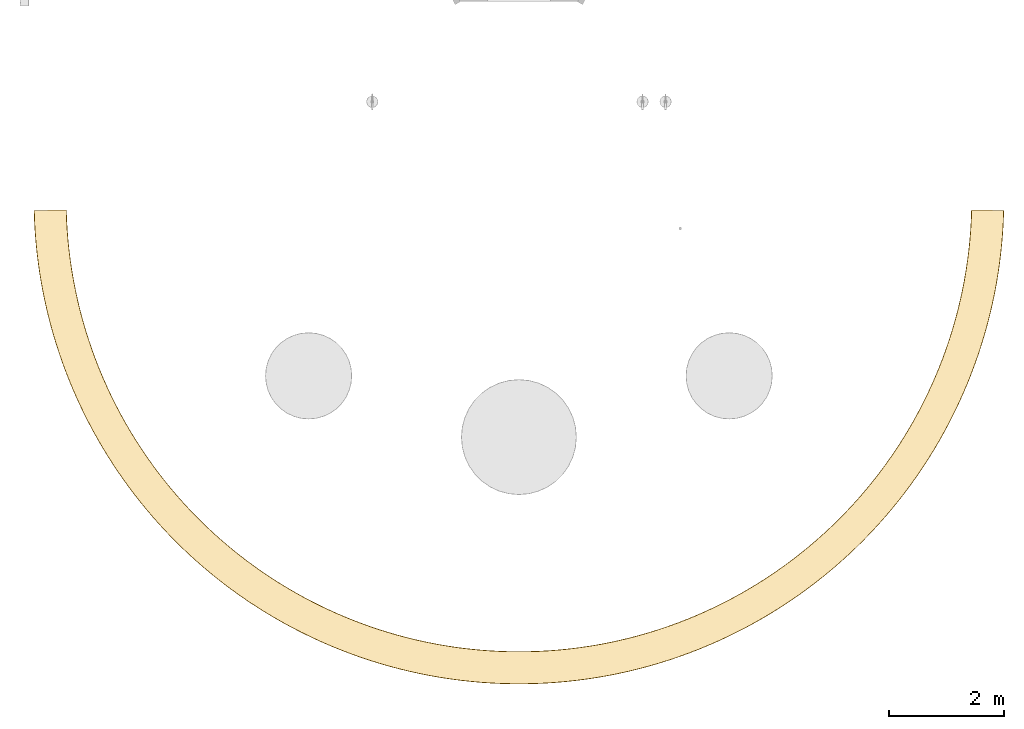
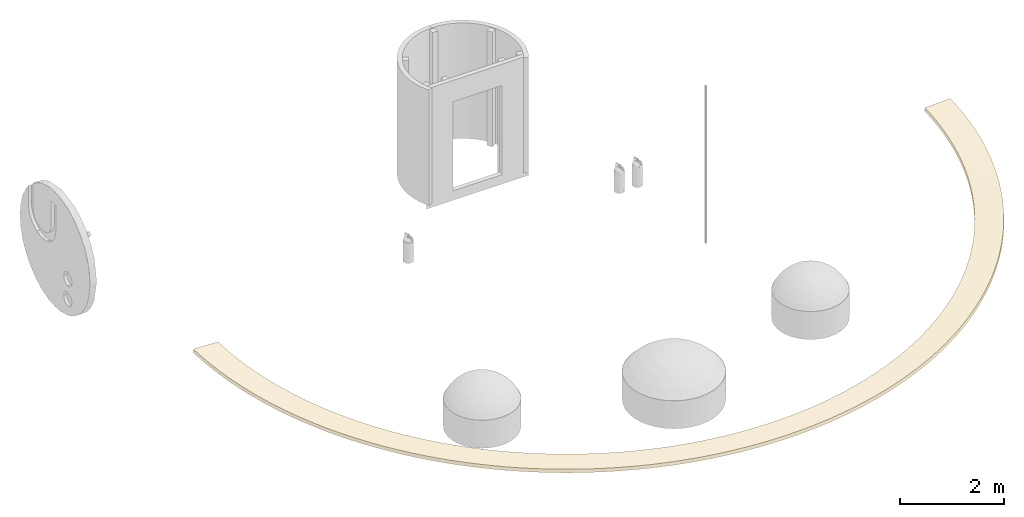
# One storey, part 4 of 4: 1 covering.
"""IFC4 building model written with IfcOpenShell, lengths in millimetres."""

import ifcopenshell
import ifcopenshell.guid

model = None  # the IFC model being written
_history = None  # IfcOwnerHistory: only IFC2X3 demands one
_inside = {}  # id of a spatial element -> (the spatial element, [elements in it])
_under = {}  # id of a project, library or spatial element -> (it, [spatial elements below it])
_declared = {}  # id of a project -> (the project, [libraries it declares])
_typed = {}  # id of a type object -> (the type object, [elements of that type])
_made_of = {}  # id of a material, layer set ... -> (it, [elements and type objects made of it])


def new_model(schema):
    """Start an empty IFC model of exactly this schema.

    Asked for "IFC4X3", IfcOpenShell would pick the latest addendum, in which some entities
    have other attributes; the version numbers below select the first issue.
    IFC2X3 requires an IfcOwnerHistory on every rooted entity: one is made here for all.
    """
    global model, _history
    if schema == "IFC4X3":
        model = ifcopenshell.file(schema_version=(4, 3, 0, 0))
    else:
        model = ifcopenshell.file(schema=schema)
    _inside.clear()
    _under.clear()
    _declared.clear()
    _typed.clear()
    _made_of.clear()
    _history = None
    if model.schema == "IFC2X3":
        org = make("IfcOrganization", Name="unknown")
        user = make(
            "IfcPersonAndOrganization",
            ThePerson=make("IfcPerson", FamilyName="unknown"),
            TheOrganization=org,
        )
        app = make(
            "IfcApplication",
            ApplicationDeveloper=org,
            Version="unknown",
            ApplicationFullName="unknown",
            ApplicationIdentifier="unknown",
        )
        _history = make(
            "IfcOwnerHistory",
            OwningUser=user,
            OwningApplication=app,
            ChangeAction="ADDED",
            CreationDate=0,
        )
    return model


def make(cls, **values):
    """One entity of the class cls with the attributes given. An attribute that is None is left unset."""
    return model.create_entity(
        cls, **{name: value for name, value in values.items() if value is not None}
    )


def entity(cls, *values):
    """Any entity or typed value of the class cls, its attributes in the order of the schema. None: left unset."""
    e = model.create_entity(cls)
    for i, value in enumerate(values):
        if value is not None:
            e[i] = value
    return e


def rooted(cls, **values):
    """An entity with a GlobalId (a new one), such as an element, a storey or a relation."""
    return make(cls, GlobalId=ifcopenshell.guid.new(), OwnerHistory=_history, **values)


def si_unit(unit_type, name, prefix=None):
    """IfcSIUnit, for example si_unit("LENGTHUNIT", "METRE", prefix="MILLI")."""
    return make("IfcSIUnit", UnitType=unit_type, Prefix=prefix, Name=name)


def converted_unit(unit_type, name, factor, base, dimensions=None, offset=None):
    """IfcConversionBasedUnit, such as the inch: factor (a typed value) times the base unit."""
    return make(
        "IfcConversionBasedUnit"
        if offset is None
        else "IfcConversionBasedUnitWithOffset",
        ConversionOffset=offset,
        Dimensions=None
        if dimensions is None
        else entity("IfcDimensionalExponents", *dimensions),
        UnitType=unit_type,
        Name=name,
        ConversionFactor=make(
            "IfcMeasureWithUnit", ValueComponent=factor, UnitComponent=base
        ),
    )


def derived_unit(unit_type, elements):
    """IfcDerivedUnit: a product of units, each with its exponent."""
    return make(
        "IfcDerivedUnit",
        Elements=[
            make("IfcDerivedUnitElement", Unit=unit, Exponent=power)
            for unit, power in elements
        ],
        UnitType=unit_type,
    )


def assignment(units):
    """IfcUnitAssignment: the units of a project."""
    return None if units is None else make("IfcUnitAssignment", Units=units)


def point(xyz):
    """IfcCartesianPoint."""
    return None if xyz is None else make("IfcCartesianPoint", Coordinates=xyz)


def direction(xyz):
    """IfcDirection."""
    return None if xyz is None else make("IfcDirection", DirectionRatios=xyz)


def frame(location, z_axis=None, x_axis=None):
    """IfcAxis2Placement3D, a coordinate frame: its origin and axes. An axis left out is left unset."""
    return make(
        "IfcAxis2Placement3D",
        Location=point(location),
        Axis=direction(z_axis),
        RefDirection=direction(x_axis),
    )


def origin_with_axes():
    """The frame at (0, 0, 0) with the z axis (0, 0, 1) and the x axis (1, 0, 0) written out."""
    return frame((0.0, 0.0, 0.0), z_axis=(0.0, 0.0, 1.0), x_axis=(1.0, 0.0, 0.0))


def place(relative_to, where):
    """IfcLocalPlacement: puts the frame where relative to a parent placement (None: the world)."""
    return make(
        "IfcLocalPlacement", PlacementRelTo=relative_to, RelativePlacement=where
    )


def context(
    kind, dimensions, precision=None, world=None, true_north=None, identifier=None
):
    """IfcGeometricRepresentationContext, for example the 3D "Model" context."""
    return make(
        "IfcGeometricRepresentationContext",
        ContextIdentifier=identifier,
        ContextType=kind,
        CoordinateSpaceDimension=dimensions,
        Precision=precision,
        WorldCoordinateSystem=world,
        TrueNorth=true_north,
    )


def subcontext(parent, identifier, kind, view, scale=None):
    """IfcGeometricRepresentationSubContext, for example "Body" below "Model"."""
    return make(
        "IfcGeometricRepresentationSubContext",
        ContextIdentifier=identifier,
        ContextType=kind,
        ParentContext=parent,
        TargetScale=scale,
        TargetView=view,
    )


def project(units=None, contexts=None):
    """IfcProject with its units and contexts."""
    return rooted(
        "IfcProject",
        Name="project",
        RepresentationContexts=contexts,
        UnitsInContext=assignment(units),
    )


def spatial(cls, under=None, at=None, **own):
    """A site, building, storey or space (cls), placed at a placement, below another one or the project."""
    s = rooted(cls, ObjectPlacement=at, **own)
    if under is not None:
        _under.setdefault(under.id(), (under, []))[1].append(s)
    return s


def point_list(points):
    """IfcCartesianPointList2D or 3D."""
    cls = (
        "IfcCartesianPointList2D" if len(points[0]) == 2 else "IfcCartesianPointList3D"
    )
    return make(cls, CoordList=points)


def line(*indices):
    """IfcLineIndex: a straight run through numbered points of an indexed curve."""
    return model.create_entity("IfcLineIndex", indices)


def indexed_curve(points, segments=None, self_intersect=None):
    """IfcIndexedPolyCurve: lines and arcs through numbered points (the first is 1)."""
    return make(
        "IfcIndexedPolyCurve",
        Points=point_list(points),
        Segments=segments,
        SelfIntersect=self_intersect,
    )


def outline(outer, holes=None, kind="AREA"):
    """IfcArbitraryClosedProfileDef: a profile drawn as a closed curve; with holes, ...WithVoids."""
    if holes is None:
        return make("IfcArbitraryClosedProfileDef", ProfileType=kind, OuterCurve=outer)
    return make(
        "IfcArbitraryProfileDefWithVoids",
        ProfileType=kind,
        OuterCurve=outer,
        InnerCurves=holes,
    )


def shape(context_of_items, identifier, shape_type, items):
    """IfcShapeRepresentation: the items that make up one representation, for example the "Body"."""
    return make(
        "IfcShapeRepresentation",
        ContextOfItems=context_of_items,
        RepresentationIdentifier=identifier,
        RepresentationType=shape_type,
        Items=items,
    )


def material(Name=None, Category=None):
    """IfcMaterial."""
    return make("IfcMaterial", Name=Name, Category=Category)


def material_profile(
    of_material, cross_section, Name=None, Category=None, Priority=None
):
    """IfcMaterialProfile: a cross section and its material."""
    return make(
        "IfcMaterialProfile",
        Name=Name,
        Material=of_material,
        Profile=cross_section,
        Priority=Priority,
        Category=Category,
    )


def profile_set(profiles, Name=None, composite=None):
    """IfcMaterialProfileSet."""
    return make(
        "IfcMaterialProfileSet",
        Name=Name,
        MaterialProfiles=profiles,
        CompositeProfile=composite,
    )


def made_of(thing, what):
    """Note that an element or type object is made of a material, layer set ...; save() writes the relation."""
    if what is not None:
        _made_of.setdefault(what.id(), (what, []))[1].append(thing)
    return thing


def type_object(cls, material=None, **own):
    """A type object (cls), such as IfcWallType, which elements share."""
    return made_of(rooted(cls, **own), material)


def element(
    cls,
    number,
    at=None,
    inside=None,
    cuts=None,
    type_object=None,
    material=None,
    context=None,
    identifier="Body",
    shape_type=None,
    held_by="IfcProductDefinitionShape",
    body=None,
    shapes=None,
    **own,
):
    """One element of the class cls, such as IfcWall. Its Tag is "e" and its number.

    at: its placement. inside: the storey or other place that contains it. cuts: it is an
    opening in that element (IfcRelVoidsElement). A single representation is given by context,
    identifier, shape_type and body (its items); several are given by shapes. held_by: the class
    of the entity that holds the representations. save() writes the other relations.
    """
    e = rooted(cls, Tag="e%d" % number, ObjectPlacement=at, **own)
    if body is not None:
        shapes = [shape(context, identifier, shape_type, body)]
    if shapes is not None:
        e.Representation = make(held_by, Representations=shapes)
    if inside is not None:
        _inside.setdefault(inside.id(), (inside, []))[1].append(e)
    if cuts is not None:
        rooted(
            "IfcRelVoidsElement", RelatingBuildingElement=cuts, RelatedOpeningElement=e
        )
    if type_object is not None:
        _typed.setdefault(type_object.id(), (type_object, []))[1].append(e)
    return made_of(e, material)


def aggregate(whole, parts):
    """IfcRelAggregates: a whole, such as a stair, and the parts it consists of."""
    return rooted("IfcRelAggregates", RelatingObject=whole, RelatedObjects=parts)


def save(model, path):
    """Write the relations noted so far, then the file.

    IfcRelAggregates (storeys below a building ...), IfcRelContainedInSpatialStructure (elements
    in a storey), IfcRelDefinesByType, IfcRelAssociatesMaterial and IfcRelDeclares: one each for
    every whole, place, type object, material and project.
    """
    for whole, parts in _under.values():
        aggregate(whole, parts)
    for where, things in _inside.values():
        rooted(
            "IfcRelContainedInSpatialStructure",
            RelatedElements=things,
            RelatingStructure=where,
        )
    for kind, things in _typed.values():
        rooted("IfcRelDefinesByType", RelatedObjects=things, RelatingType=kind)
    for what, things in _made_of.values():
        rooted("IfcRelAssociatesMaterial", RelatedObjects=things, RelatingMaterial=what)
    for by, libraries in _declared.values():
        rooted("IfcRelDeclares", RelatingContext=by, RelatedDefinitions=libraries)
    model.write(path)


model = new_model("IFC4")

# Units and contexts
model_context = context("Model", 3, precision=0.01, world=origin_with_axes(), true_north=direction((0.0, 1.0)))
body_context = subcontext(model_context, "Body", "Model", "MODEL_VIEW")
ifc_project = project(units=[si_unit("LENGTHUNIT", "METRE", prefix="MILLI"), si_unit("AREAUNIT", "SQUARE_METRE"), si_unit("VOLUMEUNIT", "CUBIC_METRE"), converted_unit("PLANEANGLEUNIT", "DEGREE", entity("IfcPlaneAngleMeasure", 0.0174532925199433), si_unit("PLANEANGLEUNIT", "RADIAN"), dimensions=[0, 0, 0, 0, 0, 0, 0]), converted_unit("TIMEUNIT", "Year", entity("IfcTimeMeasure", 31557600.0), si_unit("TIMEUNIT", "SECOND"), dimensions=[0, 0, 1, 0, 0, 0, 0]), si_unit("MASSUNIT", "GRAM", prefix="KILO"), si_unit("THERMODYNAMICTEMPERATUREUNIT", "DEGREE_CELSIUS"), si_unit("LUMINOUSINTENSITYUNIT", "LUMEN"), si_unit("ENERGYUNIT", "JOULE", prefix="MEGA"), derived_unit("THERMALCONDUCTANCEUNIT", [(si_unit("POWERUNIT", "WATT"), 1), (si_unit("LENGTHUNIT", "METRE"), -1), (si_unit("THERMODYNAMICTEMPERATUREUNIT", "KELVIN"), -1)]), derived_unit("SPECIFICHEATCAPACITYUNIT", [(si_unit("ENERGYUNIT", "JOULE"), 1), (si_unit("MASSUNIT", "GRAM", prefix="KILO"), -1), (si_unit("THERMODYNAMICTEMPERATUREUNIT", "KELVIN"), -1)]), derived_unit("MASSDENSITYUNIT", [(si_unit("MASSUNIT", "GRAM", prefix="KILO"), 1), (si_unit("VOLUMEUNIT", "CUBIC_METRE"), -1)])], contexts=[model_context])

# Site, building, storey
site_placement = place(None, origin_with_axes())
site = spatial("IfcSite", under=ifc_project, at=site_placement, Name="Exteriér", CompositionType="ELEMENT")
building_placement = place(site_placement, origin_with_axes())
building = spatial("IfcBuilding", under=site, at=building_placement, Name="Univerzitní lezecké centrum", CompositionType="ELEMENT")
storey_placement = place(building_placement, frame((0.0, 0.0, 9600.000000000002), z_axis=(0.0, 0.0, 1.0), x_axis=(1.0, 0.0, 0.0)))
storey = spatial("IfcBuildingStorey", under=building, at=storey_placement, Name="4.NP", CompositionType="ELEMENT", Elevation=9600.0)

# Covering
ifc_material = material(Name="Hliník")
ifc_material_profile = material_profile(ifc_material, outline(indexed_curve([(9.899494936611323, 11.31370849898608), (1.159269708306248, 2.573483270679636), (5.820970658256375, 78.79160044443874), (562.8952473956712, 44.71946928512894), (567.5639857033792, -31.61370764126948), (558.8237604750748, -22.8734824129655), (558.1166536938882, -23.58058919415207), (568.7232554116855, -34.18719091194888), (563.8393709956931, 45.66359288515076), (4.883884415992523, 79.85078379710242), (0.0, 0.0), (10.60660171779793, 10.60660171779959)], segments=[line(1, 2, 3, 4, 5, 6, 7, 8, 9, 10, 11, 12, 1)])), Name="Hliník")
ifc_profile_set = profile_set([ifc_material_profile], Name="Oplechování atiky")
covering_type = type_object("IfcCoveringType", Name="Oplechování atiky 569 x 114", PredefinedType="CEILING")
covering_placement = place(storey_placement, frame((-5984.138481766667, -500.8191582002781, 1160.187190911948), z_axis=(0.0, 0.0, 1.0), x_axis=(0.02399482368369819, -0.9997120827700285, 0.0)))
element("IfcCovering", 1, at=covering_placement, inside=storey, type_object=covering_type, material=ifc_profile_set, Name="KV01", PredefinedType="CEILING", context=body_context, shape_type="SweptSolid", body=[
    entity("IfcRevolvedAreaSolid", entity("IfcArbitraryClosedProfileDef", "AREA", None, entity("IfcIndexedPolyCurve", entity("IfcCartesianPointList2D", [[9.899494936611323, 11.31370849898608], [1.159269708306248, 2.573483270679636], [5.820970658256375, 78.79160044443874], [562.8952473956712, 44.71946928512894], [567.5639857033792, -31.61370764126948], [558.8237604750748, -22.8734824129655], [558.1166536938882, -23.58058919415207], [568.7232554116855, -34.18719091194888], [563.8393709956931, 45.66359288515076], [4.883884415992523, 79.85078379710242], [0.0, 0.0], [10.60660171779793, 10.60660171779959]]), [entity("IfcLineIndex", [1, 2, 3, 4, 5, 6, 7, 8, 9, 10, 11, 12, 1])])), entity("IfcAxis2Placement3D", entity("IfcCartesianPoint", [0.0, 0.0, 0.0]), entity("IfcDirection", [1.0, 0.0, 0.0]), entity("IfcDirection", [0.0, 1.0, 0.0])), entity("IfcAxis1Placement", entity("IfcCartesianPoint", [8436.91929337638, 0.0, 0.0]), entity("IfcDirection", [0.0, 1.0, 0.0])), 177.2557079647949),
])

save(model, "model.ifc")
